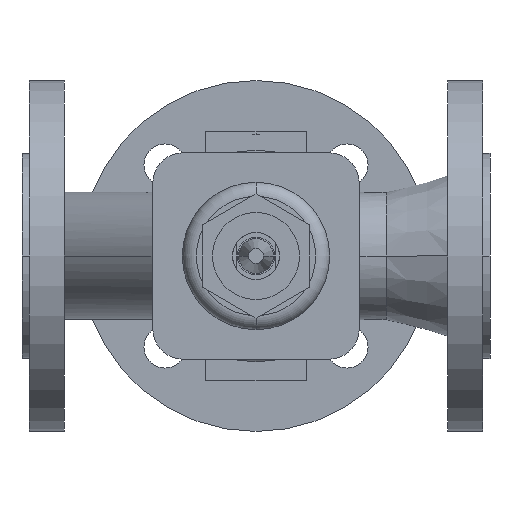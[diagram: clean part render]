
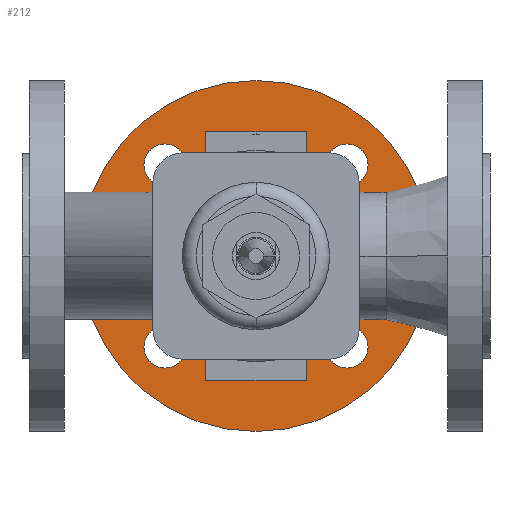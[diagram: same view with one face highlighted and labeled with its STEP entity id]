
A CAD part, front view. The second image highlights one B-rep face of the part: STEP entity #212.
In plain terms, the highlighted planar face has unit normal (0, -1, 0).
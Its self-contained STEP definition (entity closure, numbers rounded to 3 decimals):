
#212 = ADVANCED_FACE( '', ( #529, #530, #531, #532, #533, #534 ), #535, .T. );
#529 = FACE_OUTER_BOUND( '', #856, .T. );
#530 = FACE_BOUND( '', #857, .T. );
#531 = FACE_BOUND( '', #858, .T. );
#532 = FACE_BOUND( '', #859, .T. );
#533 = FACE_BOUND( '', #860, .T. );
#534 = FACE_BOUND( '', #861, .T. );
#535 = PLANE( '', #862 );
#856 = EDGE_LOOP( '', ( #1944, #1945 ) );
#857 = EDGE_LOOP( '', ( #1946, #1947 ) );
#858 = EDGE_LOOP( '', ( #1948, #1949 ) );
#859 = EDGE_LOOP( '', ( #1950, #1951 ) );
#860 = EDGE_LOOP( '', ( #1952, #1953 ) );
#861 = EDGE_LOOP( '', ( #1954, #1955 ) );
#862 = AXIS2_PLACEMENT_3D( '', #1956, #1957, #1958 );
#1944 = ORIENTED_EDGE( '', *, *, #2338, .F. );
#1945 = ORIENTED_EDGE( '', *, *, #2003, .F. );
#1946 = ORIENTED_EDGE( '', *, *, #2337, .F. );
#1947 = ORIENTED_EDGE( '', *, *, #2007, .F. );
#1948 = ORIENTED_EDGE( '', *, *, #2336, .F. );
#1949 = ORIENTED_EDGE( '', *, *, #2011, .F. );
#1950 = ORIENTED_EDGE( '', *, *, #2335, .F. );
#1951 = ORIENTED_EDGE( '', *, *, #2015, .F. );
#1952 = ORIENTED_EDGE( '', *, *, #2334, .F. );
#1953 = ORIENTED_EDGE( '', *, *, #2019, .F. );
#1954 = ORIENTED_EDGE( '', *, *, #1993, .F. );
#1955 = ORIENTED_EDGE( '', *, *, #2340, .F. );
#1956 = CARTESIAN_POINT( '', ( 59.25, 70.4, 0. ) );
#1957 = DIRECTION( '', ( 0., -1., 0. ) );
#1958 = DIRECTION( '', ( -1., 0., 0. ) );
#1993 = EDGE_CURVE( '', #2341, #2344, #2345, .T. );
#2003 = EDGE_CURVE( '', #2362, #2358, #2364, .T. );
#2007 = EDGE_CURVE( '', #2370, #2366, #2372, .T. );
#2011 = EDGE_CURVE( '', #2378, #2374, #2380, .T. );
#2015 = EDGE_CURVE( '', #2386, #2382, #2388, .T. );
#2019 = EDGE_CURVE( '', #2394, #2390, #2396, .T. );
#2334 = EDGE_CURVE( '', #2390, #2394, #2914, .T. );
#2335 = EDGE_CURVE( '', #2382, #2386, #2915, .T. );
#2336 = EDGE_CURVE( '', #2374, #2378, #2916, .T. );
#2337 = EDGE_CURVE( '', #2366, #2370, #2917, .T. );
#2338 = EDGE_CURVE( '', #2358, #2362, #2918, .T. );
#2340 = EDGE_CURVE( '', #2344, #2341, #2920, .T. );
#2341 = VERTEX_POINT( '', #2921 );
#2344 = VERTEX_POINT( '', #2925 );
#2345 = CIRCLE( '', #2926, 37.5 );
#2358 = VERTEX_POINT( '', #2942 );
#2362 = VERTEX_POINT( '', #2947 );
#2364 = CIRCLE( '', #2950, 75. );
#2366 = VERTEX_POINT( '', #2952 );
#2370 = VERTEX_POINT( '', #2957 );
#2372 = CIRCLE( '', #2960, 9. );
#2374 = VERTEX_POINT( '', #2962 );
#2378 = VERTEX_POINT( '', #2967 );
#2380 = CIRCLE( '', #2970, 9. );
#2382 = VERTEX_POINT( '', #2972 );
#2386 = VERTEX_POINT( '', #2977 );
#2388 = CIRCLE( '', #2980, 9. );
#2390 = VERTEX_POINT( '', #2982 );
#2394 = VERTEX_POINT( '', #2987 );
#2396 = CIRCLE( '', #2990, 9. );
#2914 = CIRCLE( '', #4468, 9. );
#2915 = CIRCLE( '', #4469, 9. );
#2916 = CIRCLE( '', #4470, 9. );
#2917 = CIRCLE( '', #4471, 9. );
#2918 = CIRCLE( '', #4472, 75. );
#2920 = CIRCLE( '', #4474, 37.5 );
#2921 = CARTESIAN_POINT( '', ( 62.5, 70.4, 0. ) );
#2925 = CARTESIAN_POINT( '', ( 137.5, 70.4, 0. ) );
#2926 = AXIS2_PLACEMENT_3D( '', #4476, #4477, #4478 );
#2942 = CARTESIAN_POINT( '', ( 175., 70.4, 0. ) );
#2947 = CARTESIAN_POINT( '', ( 25., 70.4, 0. ) );
#2950 = AXIS2_PLACEMENT_3D( '', #4496, #4497, #4498 );
#2952 = CARTESIAN_POINT( '', ( 147.891, 70.4, 38.891 ) );
#2957 = CARTESIAN_POINT( '', ( 129.891, 70.4, 38.891 ) );
#2960 = AXIS2_PLACEMENT_3D( '', #4504, #4505, #4506 );
#2962 = CARTESIAN_POINT( '', ( 147.891, 70.4, -38.891 ) );
#2967 = CARTESIAN_POINT( '', ( 129.891, 70.4, -38.891 ) );
#2970 = AXIS2_PLACEMENT_3D( '', #4512, #4513, #4514 );
#2972 = CARTESIAN_POINT( '', ( 70.109, 70.4, -38.891 ) );
#2977 = CARTESIAN_POINT( '', ( 52.109, 70.4, -38.891 ) );
#2980 = AXIS2_PLACEMENT_3D( '', #4520, #4521, #4522 );
#2982 = CARTESIAN_POINT( '', ( 70.109, 70.4, 38.891 ) );
#2987 = CARTESIAN_POINT( '', ( 52.109, 70.4, 38.891 ) );
#2990 = AXIS2_PLACEMENT_3D( '', #4528, #4529, #4530 );
#4468 = AXIS2_PLACEMENT_3D( '', #5133, #5134, #5135 );
#4469 = AXIS2_PLACEMENT_3D( '', #5136, #5137, #5138 );
#4470 = AXIS2_PLACEMENT_3D( '', #5139, #5140, #5141 );
#4471 = AXIS2_PLACEMENT_3D( '', #5142, #5143, #5144 );
#4472 = AXIS2_PLACEMENT_3D( '', #5145, #5146, #5147 );
#4474 = AXIS2_PLACEMENT_3D( '', #5151, #5152, #5153 );
#4476 = CARTESIAN_POINT( '', ( 100., 70.4, 0. ) );
#4477 = DIRECTION( '', ( 0., -1., 0. ) );
#4478 = DIRECTION( '', ( -1., 0., 0. ) );
#4496 = CARTESIAN_POINT( '', ( 100., 70.4, 0. ) );
#4497 = DIRECTION( '', ( 0., 1., 0. ) );
#4498 = DIRECTION( '', ( 1., 0., 0. ) );
#4504 = CARTESIAN_POINT( '', ( 138.891, 70.4, 38.891 ) );
#4505 = DIRECTION( '', ( 0., -1., 0. ) );
#4506 = DIRECTION( '', ( 1., 0., 0. ) );
#4512 = CARTESIAN_POINT( '', ( 138.891, 70.4, -38.891 ) );
#4513 = DIRECTION( '', ( 0., -1., 0. ) );
#4514 = DIRECTION( '', ( 1., 0., 0. ) );
#4520 = CARTESIAN_POINT( '', ( 61.109, 70.4, -38.891 ) );
#4521 = DIRECTION( '', ( 0., -1., 0. ) );
#4522 = DIRECTION( '', ( 1., 0., 0. ) );
#4528 = CARTESIAN_POINT( '', ( 61.109, 70.4, 38.891 ) );
#4529 = DIRECTION( '', ( 0., -1., 0. ) );
#4530 = DIRECTION( '', ( 1., 0., 0. ) );
#5133 = CARTESIAN_POINT( '', ( 61.109, 70.4, 38.891 ) );
#5134 = DIRECTION( '', ( 0., -1., 0. ) );
#5135 = DIRECTION( '', ( 1., 0., 0. ) );
#5136 = CARTESIAN_POINT( '', ( 61.109, 70.4, -38.891 ) );
#5137 = DIRECTION( '', ( 0., -1., 0. ) );
#5138 = DIRECTION( '', ( 1., 0., 0. ) );
#5139 = CARTESIAN_POINT( '', ( 138.891, 70.4, -38.891 ) );
#5140 = DIRECTION( '', ( 0., -1., 0. ) );
#5141 = DIRECTION( '', ( 1., 0., 0. ) );
#5142 = CARTESIAN_POINT( '', ( 138.891, 70.4, 38.891 ) );
#5143 = DIRECTION( '', ( 0., -1., 0. ) );
#5144 = DIRECTION( '', ( 1., 0., 0. ) );
#5145 = CARTESIAN_POINT( '', ( 100., 70.4, 0. ) );
#5146 = DIRECTION( '', ( 0., 1., 0. ) );
#5147 = DIRECTION( '', ( 1., 0., 0. ) );
#5151 = CARTESIAN_POINT( '', ( 100., 70.4, 0. ) );
#5152 = DIRECTION( '', ( 0., -1., 0. ) );
#5153 = DIRECTION( '', ( -1., 0., 0. ) );
